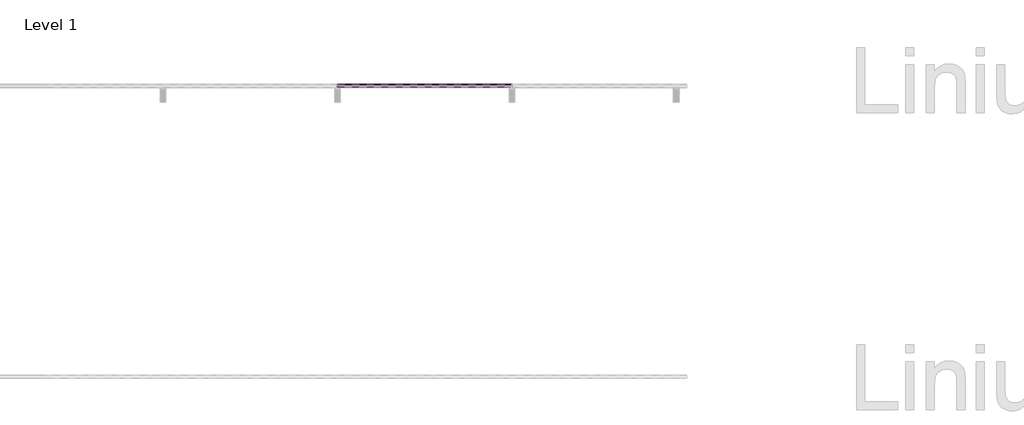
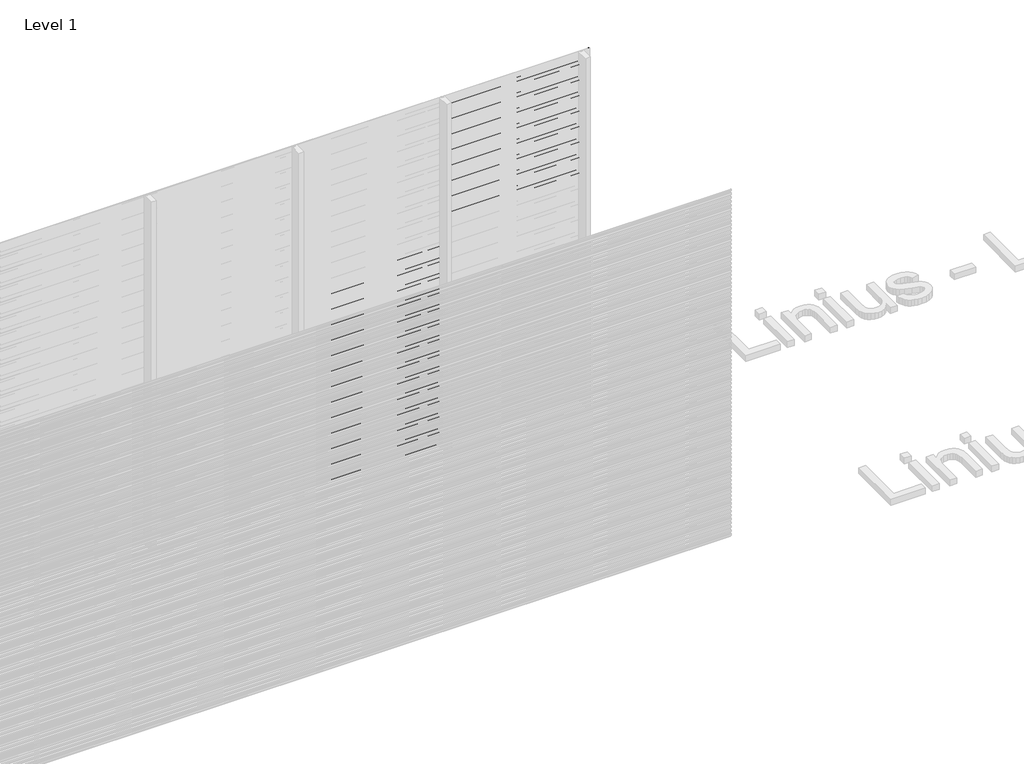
# One storey, part 46 of 507: 84 proxies.
"""IFC4 building model written with IfcOpenShell, lengths in millimetres."""

from ifc_helpers import new_model, si_unit, frame, origin, place, context, project, spatial, polyline, outline, extrude, element, save

model = new_model("IFC4")

# Units and contexts
model_context = context("Model", 3, world=origin())
ifc_project = project(units=[si_unit("LENGTHUNIT", "METRE", prefix="MILLI")], contexts=[model_context])

# Site, building, storey
site = spatial("IfcSite", under=ifc_project)
building = spatial("IfcBuilding", under=site)
storey = spatial("IfcBuildingStorey", under=building, Name="Level 1", Elevation=0.0)

# Proxies
placement = place(None, origin())
element("IfcBuildingElementProxy", 1, Name="Wall Sweeps", at=placement, inside=storey, context=model_context, shape_type="SweptSolid", body=[
    extrude(outline(polyline([(29003.4540136, 1707.6), (29003.4540136, 1694.1), (29002.2040136, 1694.8216933), (29002.2040136, 1706.8782281), (28983.0540136, 1717.9345698), (28983.0540136, 1731.6), (28984.3040136, 1731.6), (28984.3040136, 1718.6562577), (29003.4540136, 1707.6)])), frame((48566.6208096, 0.0, 0.0), z_axis=(1.0, 0.0, 0.0), x_axis=(0.0, 1.0, 0.0)), (0.0, 0.0, 1.0), 1199.9999999),
])
element("IfcBuildingElementProxy", 2, Name="Wall Sweeps", at=placement, inside=storey, context=model_context, shape_type="SweptSolid", body=[
    extrude(outline(polyline([(29003.4540136, 1674.3), (29003.4540136, 1660.8), (29002.2040136, 1661.5216933), (29002.2040136, 1673.5782281), (28983.0540136, 1684.6345698), (28983.0540136, 1698.3), (28984.3040136, 1698.3), (28984.3040136, 1685.3562577), (29003.4540136, 1674.3)])), frame((48566.6208096, 0.0, 0.0), z_axis=(1.0, 0.0, 0.0), x_axis=(0.0, 1.0, 0.0)), (0.0, 0.0, 1.0), 1199.9999999),
])
element("IfcBuildingElementProxy", 3, Name="Wall Sweeps", at=placement, inside=storey, context=model_context, shape_type="SweptSolid", body=[
    extrude(outline(polyline([(29003.4540136, 1641.0), (29003.4540136, 1627.5), (29002.2040136, 1628.2216933), (29002.2040136, 1640.2782281), (28983.0540136, 1651.3345698), (28983.0540136, 1665.0), (28984.3040136, 1665.0), (28984.3040136, 1652.0562577), (29003.4540136, 1641.0)])), frame((48566.6208096, 0.0, 0.0), z_axis=(1.0, 0.0, 0.0), x_axis=(0.0, 1.0, 0.0)), (0.0, 0.0, 1.0), 1199.9999999),
])
element("IfcBuildingElementProxy", 4, Name="Wall Sweeps", at=placement, inside=storey, context=model_context, shape_type="SweptSolid", body=[
    extrude(outline(polyline([(29003.4540136, 1607.7), (29003.4540136, 1594.2), (29002.2040136, 1594.9216933), (29002.2040136, 1606.9782281), (28983.0540136, 1618.0345698), (28983.0540136, 1631.7), (28984.3040136, 1631.7), (28984.3040136, 1618.7562577), (29003.4540136, 1607.7)])), frame((48566.6208096, 0.0, 0.0), z_axis=(1.0, 0.0, 0.0), x_axis=(0.0, 1.0, 0.0)), (0.0, 0.0, 1.0), 1199.9999999),
])
element("IfcBuildingElementProxy", 5, Name="Wall Sweeps", at=placement, inside=storey, context=model_context, shape_type="SweptSolid", body=[
    extrude(outline(polyline([(29003.4540136, 1574.4), (29003.4540136, 1560.9), (29002.2040136, 1561.6216933), (29002.2040136, 1573.6782281), (28983.0540136, 1584.7345698), (28983.0540136, 1598.4), (28984.3040136, 1598.4), (28984.3040136, 1585.4562577), (29003.4540136, 1574.4)])), frame((48566.6208096, 0.0, 0.0), z_axis=(1.0, 0.0, 0.0), x_axis=(0.0, 1.0, 0.0)), (0.0, 0.0, 1.0), 1199.9999999),
])
element("IfcBuildingElementProxy", 6, Name="Wall Sweeps", at=placement, inside=storey, context=model_context, shape_type="SweptSolid", body=[
    extrude(outline(polyline([(29003.4540136, 1541.1), (29003.4540136, 1527.6), (29002.2040136, 1528.3216933), (29002.2040136, 1540.3782281), (28983.0540136, 1551.4345698), (28983.0540136, 1565.1), (28984.3040136, 1565.1), (28984.3040136, 1552.1562577), (29003.4540136, 1541.1)])), frame((48566.6208096, 0.0, 0.0), z_axis=(1.0, 0.0, 0.0), x_axis=(0.0, 1.0, 0.0)), (0.0, 0.0, 1.0), 1199.9999999),
])
element("IfcBuildingElementProxy", 7, Name="Wall Sweeps", at=placement, inside=storey, context=model_context, shape_type="SweptSolid", body=[
    extrude(outline(polyline([(29003.4540136, 1507.8), (29003.4540136, 1494.3), (29002.2040136, 1495.0216933), (29002.2040136, 1507.0782281), (28983.0540136, 1518.1345698), (28983.0540136, 1531.8), (28984.3040136, 1531.8), (28984.3040136, 1518.8562577), (29003.4540136, 1507.8)])), frame((48566.6208096, 0.0, 0.0), z_axis=(1.0, 0.0, 0.0), x_axis=(0.0, 1.0, 0.0)), (0.0, 0.0, 1.0), 1199.9999999),
])
element("IfcBuildingElementProxy", 8, Name="Wall Sweeps", at=placement, inside=storey, context=model_context, shape_type="SweptSolid", body=[
    extrude(outline(polyline([(29003.4540136, 1474.5), (29003.4540136, 1461.0), (29002.2040136, 1461.7216933), (29002.2040136, 1473.7782281), (28983.0540136, 1484.8345698), (28983.0540136, 1498.5), (28984.3040136, 1498.5), (28984.3040136, 1485.5562577), (29003.4540136, 1474.5)])), frame((48566.6208096, 0.0, 0.0), z_axis=(1.0, 0.0, 0.0), x_axis=(0.0, 1.0, 0.0)), (0.0, 0.0, 1.0), 1199.9999999),
])
element("IfcBuildingElementProxy", 9, Name="Wall Sweeps", at=placement, inside=storey, context=model_context, shape_type="SweptSolid", body=[
    extrude(outline(polyline([(29003.4540136, 1441.2), (29003.4540136, 1427.7), (29002.2040136, 1428.4216933), (29002.2040136, 1440.4782281), (28983.0540136, 1451.5345698), (28983.0540136, 1465.2), (28984.3040136, 1465.2), (28984.3040136, 1452.2562577), (29003.4540136, 1441.2)])), frame((48566.6208096, 0.0, 0.0), z_axis=(1.0, 0.0, 0.0), x_axis=(0.0, 1.0, 0.0)), (0.0, 0.0, 1.0), 1199.9999999),
])
element("IfcBuildingElementProxy", 10, Name="Wall Sweeps", at=placement, inside=storey, context=model_context, shape_type="SweptSolid", body=[
    extrude(outline(polyline([(29003.4540136, 1407.9), (29003.4540136, 1394.4), (29002.2040136, 1395.1216933), (29002.2040136, 1407.1782281), (28983.0540136, 1418.2345698), (28983.0540136, 1431.9), (28984.3040136, 1431.9), (28984.3040136, 1418.9562577), (29003.4540136, 1407.9)])), frame((48566.6208096, 0.0, 0.0), z_axis=(1.0, 0.0, 0.0), x_axis=(0.0, 1.0, 0.0)), (0.0, 0.0, 1.0), 1199.9999999),
])
element("IfcBuildingElementProxy", 11, Name="Wall Sweeps", at=placement, inside=storey, context=model_context, shape_type="SweptSolid", body=[
    extrude(outline(polyline([(29003.4540136, 1374.6), (29003.4540136, 1361.1), (29002.2040136, 1361.8216933), (29002.2040136, 1373.8782281), (28983.0540136, 1384.9345698), (28983.0540136, 1398.6), (28984.3040136, 1398.6), (28984.3040136, 1385.6562577), (29003.4540136, 1374.6)])), frame((48566.6208096, 0.0, 0.0), z_axis=(1.0, 0.0, 0.0), x_axis=(0.0, 1.0, 0.0)), (0.0, 0.0, 1.0), 1199.9999999),
])
element("IfcBuildingElementProxy", 12, Name="Wall Sweeps", at=placement, inside=storey, context=model_context, shape_type="SweptSolid", body=[
    extrude(outline(polyline([(29003.4540136, 1341.3), (29003.4540136, 1327.8), (29002.2040136, 1328.5216933), (29002.2040136, 1340.5782281), (28983.0540136, 1351.6345698), (28983.0540136, 1365.3), (28984.3040136, 1365.3), (28984.3040136, 1352.3562577), (29003.4540136, 1341.3)])), frame((48566.6208096, 0.0, 0.0), z_axis=(1.0, 0.0, 0.0), x_axis=(0.0, 1.0, 0.0)), (0.0, 0.0, 1.0), 1199.9999999),
])
element("IfcBuildingElementProxy", 13, Name="Wall Sweeps", at=placement, inside=storey, context=model_context, shape_type="SweptSolid", body=[
    extrude(outline(polyline([(29003.4540136, 1308.0), (29003.4540136, 1294.5), (29002.2040136, 1295.2216933), (29002.2040136, 1307.2782281), (28983.0540136, 1318.3345698), (28983.0540136, 1332.0), (28984.3040136, 1332.0), (28984.3040136, 1319.0562577), (29003.4540136, 1308.0)])), frame((48566.6208096, 0.0, 0.0), z_axis=(1.0, 0.0, 0.0), x_axis=(0.0, 1.0, 0.0)), (0.0, 0.0, 1.0), 1199.9999999),
])
element("IfcBuildingElementProxy", 14, Name="Wall Sweeps", at=placement, inside=storey, context=model_context, shape_type="SweptSolid", body=[
    extrude(outline(polyline([(29003.4540136, 1274.7), (29003.4540136, 1261.2), (29002.2040136, 1261.9216933), (29002.2040136, 1273.9782281), (28983.0540136, 1285.0345698), (28983.0540136, 1298.7), (28984.3040136, 1298.7), (28984.3040136, 1285.7562577), (29003.4540136, 1274.7)])), frame((48566.6208096, 0.0, 0.0), z_axis=(1.0, 0.0, 0.0), x_axis=(0.0, 1.0, 0.0)), (0.0, 0.0, 1.0), 1199.9999999),
])
element("IfcBuildingElementProxy", 15, Name="Wall Sweeps", at=placement, inside=storey, context=model_context, shape_type="SweptSolid", body=[
    extrude(outline(polyline([(29003.4540136, 1241.4), (29003.4540136, 1227.9), (29002.2040136, 1228.6216933), (29002.2040136, 1240.6782281), (28983.0540136, 1251.7345698), (28983.0540136, 1265.4), (28984.3040136, 1265.4), (28984.3040136, 1252.4562577), (29003.4540136, 1241.4)])), frame((48566.6208096, 0.0, 0.0), z_axis=(1.0, 0.0, 0.0), x_axis=(0.0, 1.0, 0.0)), (0.0, 0.0, 1.0), 1199.9999999),
])
element("IfcBuildingElementProxy", 16, Name="Wall Sweeps", at=placement, inside=storey, context=model_context, shape_type="SweptSolid", body=[
    extrude(outline(polyline([(29003.4540136, 1208.1), (29003.4540136, 1194.6), (29002.2040136, 1195.3216933), (29002.2040136, 1207.3782281), (28983.0540136, 1218.4345698), (28983.0540136, 1232.1), (28984.3040136, 1232.1), (28984.3040136, 1219.1562577), (29003.4540136, 1208.1)])), frame((48566.6208096, 0.0, 0.0), z_axis=(1.0, 0.0, 0.0), x_axis=(0.0, 1.0, 0.0)), (0.0, 0.0, 1.0), 1199.9999999),
])
element("IfcBuildingElementProxy", 17, Name="Wall Sweeps", at=placement, inside=storey, context=model_context, shape_type="SweptSolid", body=[
    extrude(outline(polyline([(29003.4540136, 1174.8), (29003.4540136, 1161.3), (29002.2040136, 1162.0216933), (29002.2040136, 1174.0782281), (28983.0540136, 1185.1345698), (28983.0540136, 1198.8), (28984.3040136, 1198.8), (28984.3040136, 1185.8562577), (29003.4540136, 1174.8)])), frame((48566.6208096, 0.0, 0.0), z_axis=(1.0, 0.0, 0.0), x_axis=(0.0, 1.0, 0.0)), (0.0, 0.0, 1.0), 1199.9999999),
])
element("IfcBuildingElementProxy", 18, Name="Wall Sweeps", at=placement, inside=storey, context=model_context, shape_type="SweptSolid", body=[
    extrude(outline(polyline([(29003.4540136, 1141.5), (29003.4540136, 1128.0), (29002.2040136, 1128.7216933), (29002.2040136, 1140.7782281), (28983.0540136, 1151.8345698), (28983.0540136, 1165.5), (28984.3040136, 1165.5), (28984.3040136, 1152.5562577), (29003.4540136, 1141.5)])), frame((48566.6208096, 0.0, 0.0), z_axis=(1.0, 0.0, 0.0), x_axis=(0.0, 1.0, 0.0)), (0.0, 0.0, 1.0), 1199.9999999),
])
element("IfcBuildingElementProxy", 19, Name="Wall Sweeps", at=placement, inside=storey, context=model_context, shape_type="SweptSolid", body=[
    extrude(outline(polyline([(29003.4540136, 1108.2), (29003.4540136, 1094.7), (29002.2040136, 1095.4216933), (29002.2040136, 1107.4782281), (28983.0540136, 1118.5345698), (28983.0540136, 1132.2), (28984.3040136, 1132.2), (28984.3040136, 1119.2562577), (29003.4540136, 1108.2)])), frame((48566.6208096, 0.0, 0.0), z_axis=(1.0, 0.0, 0.0), x_axis=(0.0, 1.0, 0.0)), (0.0, 0.0, 1.0), 1199.9999999),
])
element("IfcBuildingElementProxy", 20, Name="Wall Sweeps", at=placement, inside=storey, context=model_context, shape_type="SweptSolid", body=[
    extrude(outline(polyline([(29003.4540136, 1074.9), (29003.4540136, 1061.4), (29002.2040136, 1062.1216933), (29002.2040136, 1074.1782281), (28983.0540136, 1085.2345698), (28983.0540136, 1098.9), (28984.3040136, 1098.9), (28984.3040136, 1085.9562577), (29003.4540136, 1074.9)])), frame((48566.6208096, 0.0, 0.0), z_axis=(1.0, 0.0, 0.0), x_axis=(0.0, 1.0, 0.0)), (0.0, 0.0, 1.0), 1199.9999999),
])
element("IfcBuildingElementProxy", 21, Name="Wall Sweeps", at=placement, inside=storey, context=model_context, shape_type="SweptSolid", body=[
    extrude(outline(polyline([(29003.4540136, 1041.6), (29003.4540136, 1028.1), (29002.2040136, 1028.8216933), (29002.2040136, 1040.8782281), (28983.0540136, 1051.9345698), (28983.0540136, 1065.6), (28984.3040136, 1065.6), (28984.3040136, 1052.6562577), (29003.4540136, 1041.6)])), frame((48566.6208096, 0.0, 0.0), z_axis=(1.0, 0.0, 0.0), x_axis=(0.0, 1.0, 0.0)), (0.0, 0.0, 1.0), 1199.9999999),
])
element("IfcBuildingElementProxy", 22, Name="Wall Sweeps", at=placement, inside=storey, context=model_context, shape_type="SweptSolid", body=[
    extrude(outline(polyline([(29003.4540136, 1008.3), (29003.4540136, 994.8), (29002.2040136, 995.5216933), (29002.2040136, 1007.5782281), (28983.0540136, 1018.6345698), (28983.0540136, 1032.3), (28984.3040136, 1032.3), (28984.3040136, 1019.3562577), (29003.4540136, 1008.3)])), frame((48566.6208096, 0.0, 0.0), z_axis=(1.0, 0.0, 0.0), x_axis=(0.0, 1.0, 0.0)), (0.0, 0.0, 1.0), 1199.9999999),
])
element("IfcBuildingElementProxy", 23, Name="Wall Sweeps", at=placement, inside=storey, context=model_context, shape_type="SweptSolid", body=[
    extrude(outline(polyline([(29003.4540136, 975.0), (29003.4540136, 961.5), (29002.2040136, 962.2216933), (29002.2040136, 974.2782281), (28983.0540136, 985.3345698), (28983.0540136, 999.0), (28984.3040136, 999.0), (28984.3040136, 986.0562577), (29003.4540136, 975.0)])), frame((48566.6208096, 0.0, 0.0), z_axis=(1.0, 0.0, 0.0), x_axis=(0.0, 1.0, 0.0)), (0.0, 0.0, 1.0), 1199.9999999),
])
element("IfcBuildingElementProxy", 24, Name="Wall Sweeps", at=placement, inside=storey, context=model_context, shape_type="SweptSolid", body=[
    extrude(outline(polyline([(29003.4540136, 941.7), (29003.4540136, 928.2), (29002.2040136, 928.9216933), (29002.2040136, 940.9782281), (28983.0540136, 952.0345698), (28983.0540136, 965.7), (28984.3040136, 965.7), (28984.3040136, 952.7562577), (29003.4540136, 941.7)])), frame((48566.6208096, 0.0, 0.0), z_axis=(1.0, 0.0, 0.0), x_axis=(0.0, 1.0, 0.0)), (0.0, 0.0, 1.0), 1199.9999999),
])
element("IfcBuildingElementProxy", 25, Name="Wall Sweeps", at=placement, inside=storey, context=model_context, shape_type="SweptSolid", body=[
    extrude(outline(polyline([(29003.4540136, 908.4), (29003.4540136, 894.9), (29002.2040136, 895.6216933), (29002.2040136, 907.6782281), (28983.0540136, 918.7345698), (28983.0540136, 932.4), (28984.3040136, 932.4), (28984.3040136, 919.4562577), (29003.4540136, 908.4)])), frame((48566.6208096, 0.0, 0.0), z_axis=(1.0, 0.0, 0.0), x_axis=(0.0, 1.0, 0.0)), (0.0, 0.0, 1.0), 1199.9999999),
])
element("IfcBuildingElementProxy", 26, Name="Wall Sweeps", at=placement, inside=storey, context=model_context, shape_type="SweptSolid", body=[
    extrude(outline(polyline([(29003.4540136, 875.1), (29003.4540136, 861.6), (29002.2040136, 862.3216933), (29002.2040136, 874.3782281), (28983.0540136, 885.4345698), (28983.0540136, 899.1), (28984.3040136, 899.1), (28984.3040136, 886.1562577), (29003.4540136, 875.1)])), frame((48566.6208096, 0.0, 0.0), z_axis=(1.0, 0.0, 0.0), x_axis=(0.0, 1.0, 0.0)), (0.0, 0.0, 1.0), 1199.9999999),
])
element("IfcBuildingElementProxy", 27, Name="Wall Sweeps", at=placement, inside=storey, context=model_context, shape_type="SweptSolid", body=[
    extrude(outline(polyline([(29003.4540136, 841.8), (29003.4540136, 828.3), (29002.2040136, 829.0216933), (29002.2040136, 841.0782281), (28983.0540136, 852.1345698), (28983.0540136, 865.8), (28984.3040136, 865.8), (28984.3040136, 852.8562577), (29003.4540136, 841.8)])), frame((48566.6208096, 0.0, 0.0), z_axis=(1.0, 0.0, 0.0), x_axis=(0.0, 1.0, 0.0)), (0.0, 0.0, 1.0), 1199.9999999),
])
element("IfcBuildingElementProxy", 28, Name="Wall Sweeps", at=placement, inside=storey, context=model_context, shape_type="SweptSolid", body=[
    extrude(outline(polyline([(29003.4540136, 808.5), (29003.4540136, 795.0), (29002.2040136, 795.7216933), (29002.2040136, 807.7782281), (28983.0540136, 818.8345698), (28983.0540136, 832.5), (28984.3040136, 832.5), (28984.3040136, 819.5562577), (29003.4540136, 808.5)])), frame((48566.6208096, 0.0, 0.0), z_axis=(1.0, 0.0, 0.0), x_axis=(0.0, 1.0, 0.0)), (0.0, 0.0, 1.0), 1199.9999999),
])
element("IfcBuildingElementProxy", 29, Name="Wall Sweeps", at=placement, inside=storey, context=model_context, shape_type="SweptSolid", body=[
    extrude(outline(polyline([(29003.4540136, 775.2), (29003.4540136, 761.7), (29002.2040136, 762.4216933), (29002.2040136, 774.4782281), (28983.0540136, 785.5345698), (28983.0540136, 799.2), (28984.3040136, 799.2), (28984.3040136, 786.2562577), (29003.4540136, 775.2)])), frame((48566.6208096, 0.0, 0.0), z_axis=(1.0, 0.0, 0.0), x_axis=(0.0, 1.0, 0.0)), (0.0, 0.0, 1.0), 1199.9999999),
])
element("IfcBuildingElementProxy", 30, Name="Wall Sweeps", at=placement, inside=storey, context=model_context, shape_type="SweptSolid", body=[
    extrude(outline(polyline([(29003.4540136, 741.9), (29003.4540136, 728.4), (29002.2040136, 729.1216933), (29002.2040136, 741.1782281), (28983.0540136, 752.2345698), (28983.0540136, 765.9), (28984.3040136, 765.9), (28984.3040136, 752.9562577), (29003.4540136, 741.9)])), frame((48566.6208096, 0.0, 0.0), z_axis=(1.0, 0.0, 0.0), x_axis=(0.0, 1.0, 0.0)), (0.0, 0.0, 1.0), 1199.9999999),
])
element("IfcBuildingElementProxy", 31, Name="Wall Sweeps", at=placement, inside=storey, context=model_context, shape_type="SweptSolid", body=[
    extrude(outline(polyline([(29003.4540136, 708.6), (29003.4540136, 695.1), (29002.2040136, 695.8216933), (29002.2040136, 707.8782281), (28983.0540136, 718.9345698), (28983.0540136, 732.6), (28984.3040136, 732.6), (28984.3040136, 719.6562577), (29003.4540136, 708.6)])), frame((48566.6208096, 0.0, 0.0), z_axis=(1.0, 0.0, 0.0), x_axis=(0.0, 1.0, 0.0)), (0.0, 0.0, 1.0), 1199.9999999),
])
element("IfcBuildingElementProxy", 32, Name="Wall Sweeps", at=placement, inside=storey, context=model_context, shape_type="SweptSolid", body=[
    extrude(outline(polyline([(29003.4540136, 675.3), (29003.4540136, 661.8), (29002.2040136, 662.5216933), (29002.2040136, 674.5782281), (28983.0540136, 685.6345698), (28983.0540136, 699.3), (28984.3040136, 699.3), (28984.3040136, 686.3562577), (29003.4540136, 675.3)])), frame((48566.6208096, 0.0, 0.0), z_axis=(1.0, 0.0, 0.0), x_axis=(0.0, 1.0, 0.0)), (0.0, 0.0, 1.0), 1199.9999999),
])
element("IfcBuildingElementProxy", 33, Name="Wall Sweeps", at=placement, inside=storey, context=model_context, shape_type="SweptSolid", body=[
    extrude(outline(polyline([(29003.4540136, 642.0), (29003.4540136, 628.5), (29002.2040136, 629.2216933), (29002.2040136, 641.2782281), (28983.0540136, 652.3345698), (28983.0540136, 666.0), (28984.3040136, 666.0), (28984.3040136, 653.0562577), (29003.4540136, 642.0)])), frame((48566.6208096, 0.0, 0.0), z_axis=(1.0, 0.0, 0.0), x_axis=(0.0, 1.0, 0.0)), (0.0, 0.0, 1.0), 1199.9999999),
])
element("IfcBuildingElementProxy", 34, Name="Wall Sweeps", at=placement, inside=storey, context=model_context, shape_type="SweptSolid", body=[
    extrude(outline(polyline([(29003.4540136, 608.7), (29003.4540136, 595.2), (29002.2040136, 595.9216933), (29002.2040136, 607.9782281), (28983.0540136, 619.0345698), (28983.0540136, 632.7), (28984.3040136, 632.7), (28984.3040136, 619.7562577), (29003.4540136, 608.7)])), frame((48566.6208096, 0.0, 0.0), z_axis=(1.0, 0.0, 0.0), x_axis=(0.0, 1.0, 0.0)), (0.0, 0.0, 1.0), 1199.9999999),
])
element("IfcBuildingElementProxy", 35, Name="Wall Sweeps", at=placement, inside=storey, context=model_context, shape_type="SweptSolid", body=[
    extrude(outline(polyline([(29003.4540136, 575.4), (29003.4540136, 561.9), (29002.2040136, 562.6216933), (29002.2040136, 574.6782281), (28983.0540136, 585.7345698), (28983.0540136, 599.4), (28984.3040136, 599.4), (28984.3040136, 586.4562577), (29003.4540136, 575.4)])), frame((48566.6208096, 0.0, 0.0), z_axis=(1.0, 0.0, 0.0), x_axis=(0.0, 1.0, 0.0)), (0.0, 0.0, 1.0), 1199.9999999),
])
element("IfcBuildingElementProxy", 36, Name="Wall Sweeps", at=placement, inside=storey, context=model_context, shape_type="SweptSolid", body=[
    extrude(outline(polyline([(29003.4540136, 542.1), (29003.4540136, 528.6), (29002.2040136, 529.3216933), (29002.2040136, 541.3782281), (28983.0540136, 552.4345698), (28983.0540136, 566.1), (28984.3040136, 566.1), (28984.3040136, 553.1562577), (29003.4540136, 542.1)])), frame((48566.6208096, 0.0, 0.0), z_axis=(1.0, 0.0, 0.0), x_axis=(0.0, 1.0, 0.0)), (0.0, 0.0, 1.0), 1199.9999999),
])
element("IfcBuildingElementProxy", 37, Name="Wall Sweeps", at=placement, inside=storey, context=model_context, shape_type="SweptSolid", body=[
    extrude(outline(polyline([(29003.4540136, 508.8), (29003.4540136, 495.3), (29002.2040136, 496.0216933), (29002.2040136, 508.0782281), (28983.0540136, 519.1345698), (28983.0540136, 532.8), (28984.3040136, 532.8), (28984.3040136, 519.8562577), (29003.4540136, 508.8)])), frame((48566.6208096, 0.0, 0.0), z_axis=(1.0, 0.0, 0.0), x_axis=(0.0, 1.0, 0.0)), (0.0, 0.0, 1.0), 1199.9999999),
])
element("IfcBuildingElementProxy", 38, Name="Wall Sweeps", at=placement, inside=storey, context=model_context, shape_type="SweptSolid", body=[
    extrude(outline(polyline([(29003.4540136, 475.5), (29003.4540136, 462.0), (29002.2040136, 462.7216933), (29002.2040136, 474.7782281), (28983.0540136, 485.8345698), (28983.0540136, 499.5), (28984.3040136, 499.5), (28984.3040136, 486.5562577), (29003.4540136, 475.5)])), frame((48566.6208096, 0.0, 0.0), z_axis=(1.0, 0.0, 0.0), x_axis=(0.0, 1.0, 0.0)), (0.0, 0.0, 1.0), 1199.9999999),
])
element("IfcBuildingElementProxy", 39, Name="Wall Sweeps", at=placement, inside=storey, context=model_context, shape_type="SweptSolid", body=[
    extrude(outline(polyline([(29003.4540136, 442.2), (29003.4540136, 428.7), (29002.2040136, 429.4216933), (29002.2040136, 441.4782281), (28983.0540136, 452.5345698), (28983.0540136, 466.2), (28984.3040136, 466.2), (28984.3040136, 453.2562577), (29003.4540136, 442.2)])), frame((48566.6208096, 0.0, 0.0), z_axis=(1.0, 0.0, 0.0), x_axis=(0.0, 1.0, 0.0)), (0.0, 0.0, 1.0), 1199.9999999),
])
element("IfcBuildingElementProxy", 40, Name="Wall Sweeps", at=placement, inside=storey, context=model_context, shape_type="SweptSolid", body=[
    extrude(outline(polyline([(29003.4540136, 408.9), (29003.4540136, 395.4), (29002.2040136, 396.1216933), (29002.2040136, 408.1782281), (28983.0540136, 419.2345698), (28983.0540136, 432.9), (28984.3040136, 432.9), (28984.3040136, 419.9562577), (29003.4540136, 408.9)])), frame((48566.6208096, 0.0, 0.0), z_axis=(1.0, 0.0, 0.0), x_axis=(0.0, 1.0, 0.0)), (0.0, 0.0, 1.0), 1199.9999999),
])
element("IfcBuildingElementProxy", 41, Name="Wall Sweeps", at=placement, inside=storey, context=model_context, shape_type="SweptSolid", body=[
    extrude(outline(polyline([(29003.4540136, 375.6), (29003.4540136, 362.1), (29002.2040136, 362.8216933), (29002.2040136, 374.8782281), (28983.0540136, 385.9345698), (28983.0540136, 399.6), (28984.3040136, 399.6), (28984.3040136, 386.6562577), (29003.4540136, 375.6)])), frame((48566.6208096, 0.0, 0.0), z_axis=(1.0, 0.0, 0.0), x_axis=(0.0, 1.0, 0.0)), (0.0, 0.0, 1.0), 1199.9999999),
])
element("IfcBuildingElementProxy", 42, Name="Wall Sweeps", at=placement, inside=storey, context=model_context, shape_type="SweptSolid", body=[
    extrude(outline(polyline([(29003.4540136, 342.3), (29003.4540136, 328.8), (29002.2040136, 329.5216933), (29002.2040136, 341.5782281), (28983.0540136, 352.6345698), (28983.0540136, 366.3), (28984.3040136, 366.3), (28984.3040136, 353.3562577), (29003.4540136, 342.3)])), frame((48566.6208096, 0.0, 0.0), z_axis=(1.0, 0.0, 0.0), x_axis=(0.0, 1.0, 0.0)), (0.0, 0.0, 1.0), 1199.9999999),
])
element("IfcBuildingElementProxy", 43, Name="Wall Sweeps", at=placement, inside=storey, context=model_context, shape_type="SweptSolid", body=[
    extrude(outline(polyline([(29003.4540136, 309.0), (29003.4540136, 295.5), (29002.2040136, 296.2216933), (29002.2040136, 308.2782281), (28983.0540136, 319.3345698), (28983.0540136, 333.0), (28984.3040136, 333.0), (28984.3040136, 320.0562577), (29003.4540136, 309.0)])), frame((48566.6208096, 0.0, 0.0), z_axis=(1.0, 0.0, 0.0), x_axis=(0.0, 1.0, 0.0)), (0.0, 0.0, 1.0), 1199.9999999),
])
element("IfcBuildingElementProxy", 44, Name="Wall Sweeps", at=placement, inside=storey, context=model_context, shape_type="SweptSolid", body=[
    extrude(outline(polyline([(29003.4540136, 275.7), (29003.4540136, 262.2), (29002.2040136, 262.9216933), (29002.2040136, 274.9782281), (28983.0540136, 286.0345698), (28983.0540136, 299.7), (28984.3040136, 299.7), (28984.3040136, 286.7562577), (29003.4540136, 275.7)])), frame((48566.6208096, 0.0, 0.0), z_axis=(1.0, 0.0, 0.0), x_axis=(0.0, 1.0, 0.0)), (0.0, 0.0, 1.0), 1199.9999999),
])
element("IfcBuildingElementProxy", 45, Name="Wall Sweeps", at=placement, inside=storey, context=model_context, shape_type="SweptSolid", body=[
    extrude(outline(polyline([(29003.4540136, 242.4), (29003.4540136, 228.9), (29002.2040136, 229.6216933), (29002.2040136, 241.6782281), (28983.0540136, 252.7345698), (28983.0540136, 266.4), (28984.3040136, 266.4), (28984.3040136, 253.4562577), (29003.4540136, 242.4)])), frame((48566.6208096, 0.0, 0.0), z_axis=(1.0, 0.0, 0.0), x_axis=(0.0, 1.0, 0.0)), (0.0, 0.0, 1.0), 1199.9999999),
])
element("IfcBuildingElementProxy", 46, Name="Wall Sweeps", at=placement, inside=storey, context=model_context, shape_type="SweptSolid", body=[
    extrude(outline(polyline([(29003.4540136, 209.1), (29003.4540136, 195.6), (29002.2040136, 196.3216933), (29002.2040136, 208.3782281), (28983.0540136, 219.4345698), (28983.0540136, 233.1), (28984.3040136, 233.1), (28984.3040136, 220.1562577), (29003.4540136, 209.1)])), frame((48566.6208096, 0.0, 0.0), z_axis=(1.0, 0.0, 0.0), x_axis=(0.0, 1.0, 0.0)), (0.0, 0.0, 1.0), 1199.9999999),
])
element("IfcBuildingElementProxy", 47, Name="Wall Sweeps", at=placement, inside=storey, context=model_context, shape_type="SweptSolid", body=[
    extrude(outline(polyline([(29003.4540136, 175.8), (29003.4540136, 162.3), (29002.2040136, 163.0216933), (29002.2040136, 175.0782281), (28983.0540136, 186.1345698), (28983.0540136, 199.8), (28984.3040136, 199.8), (28984.3040136, 186.8562577), (29003.4540136, 175.8)])), frame((48566.6208096, 0.0, 0.0), z_axis=(1.0, 0.0, 0.0), x_axis=(0.0, 1.0, 0.0)), (0.0, 0.0, 1.0), 1199.9999999),
])
element("IfcBuildingElementProxy", 48, Name="Wall Sweeps", at=placement, inside=storey, context=model_context, shape_type="SweptSolid", body=[
    extrude(outline(polyline([(29003.4540136, 142.5), (29003.4540136, 129.0), (29002.2040136, 129.7216933), (29002.2040136, 141.7782281), (28983.0540136, 152.8345698), (28983.0540136, 166.5), (28984.3040136, 166.5), (28984.3040136, 153.5562577), (29003.4540136, 142.5)])), frame((48566.6208096, 0.0, 0.0), z_axis=(1.0, 0.0, 0.0), x_axis=(0.0, 1.0, 0.0)), (0.0, 0.0, 1.0), 1199.9999999),
])
element("IfcBuildingElementProxy", 49, Name="Wall Sweeps", at=placement, inside=storey, context=model_context, shape_type="SweptSolid", body=[
    extrude(outline(polyline([(29003.4540136, 109.2), (29003.4540136, 95.7), (29002.2040136, 96.4216933), (29002.2040136, 108.4782281), (28983.0540136, 119.5345698), (28983.0540136, 133.2), (28984.3040136, 133.2), (28984.3040136, 120.2562577), (29003.4540136, 109.2)])), frame((48566.6208096, 0.0, 0.0), z_axis=(1.0, 0.0, 0.0), x_axis=(0.0, 1.0, 0.0)), (0.0, 0.0, 1.0), 1199.9999999),
])
element("IfcBuildingElementProxy", 50, Name="Wall Sweeps", at=placement, inside=storey, context=model_context, shape_type="SweptSolid", body=[
    extrude(outline(polyline([(29003.4540136, 75.9), (29003.4540136, 62.4), (29002.2040136, 63.1216933), (29002.2040136, 75.1782281), (28983.0540136, 86.2345698), (28983.0540136, 99.9), (28984.3040136, 99.9), (28984.3040136, 86.9562577), (29003.4540136, 75.9)])), frame((48566.6208096, 0.0, 0.0), z_axis=(1.0, 0.0, 0.0), x_axis=(0.0, 1.0, 0.0)), (0.0, 0.0, 1.0), 1199.9999999),
])
element("IfcBuildingElementProxy", 51, Name="Wall Sweeps", at=placement, inside=storey, context=model_context, shape_type="SweptSolid", body=[
    extrude(outline(polyline([(29003.4540136, 42.6), (29003.4540136, 29.1), (29002.2040136, 29.8216933), (29002.2040136, 41.8782281), (28983.0540136, 52.9345698), (28983.0540136, 66.6), (28984.3040136, 66.6), (28984.3040136, 53.6562577), (29003.4540136, 42.6)])), frame((48566.6208096, 0.0, 0.0), z_axis=(1.0, 0.0, 0.0), x_axis=(0.0, 1.0, 0.0)), (0.0, 0.0, 1.0), 1199.9999999),
])
element("IfcBuildingElementProxy", 52, Name="Wall Sweeps", at=placement, inside=storey, context=model_context, shape_type="SweptSolid", body=[
    extrude(outline(polyline([(29003.4540136, 9.3), (29003.4540136, -4.2), (29002.2040136, -3.4783067), (29002.2040136, 8.5782281), (28983.0540136, 19.6345698), (28983.0540136, 33.3), (28984.3040136, 33.3), (28984.3040136, 20.3562577), (29003.4540136, 9.3)])), frame((48566.6208096, 0.0, 0.0), z_axis=(1.0, 0.0, 0.0), x_axis=(0.0, 1.0, 0.0)), (0.0, 0.0, 1.0), 1199.9999999),
])
element("IfcBuildingElementProxy", 53, Name="Wall Sweeps", at=placement, inside=storey, context=model_context, shape_type="SweptSolid", body=[
    extrude(outline(polyline([(29003.4540136, 2973.0), (29003.4540136, 2959.5), (29002.2040136, 2960.2216933), (29002.2040136, 2972.2782281), (28983.0540136, 2983.3345698), (28983.0540136, 2997.0), (28984.3040136, 2997.0), (28984.3040136, 2984.0562577), (29003.4540136, 2973.0)])), frame((49766.6208095, 0.0, 0.0), z_axis=(1.0, 0.0, 0.0), x_axis=(0.0, 1.0, 0.0)), (0.0, 0.0, 1.0), 1200.0000002),
])
element("IfcBuildingElementProxy", 54, Name="Wall Sweeps", at=placement, inside=storey, context=model_context, shape_type="SweptSolid", body=[
    extrude(outline(polyline([(29003.4540136, 2939.7), (29003.4540136, 2926.2), (29002.2040136, 2926.9216933), (29002.2040136, 2938.9782281), (28983.0540136, 2950.0345698), (28983.0540136, 2963.7), (28984.3040136, 2963.7), (28984.3040136, 2950.7562577), (29003.4540136, 2939.7)])), frame((49766.6208095, 0.0, 0.0), z_axis=(1.0, 0.0, 0.0), x_axis=(0.0, 1.0, 0.0)), (0.0, 0.0, 1.0), 1200.0000002),
])
element("IfcBuildingElementProxy", 55, Name="Wall Sweeps", at=placement, inside=storey, context=model_context, shape_type="SweptSolid", body=[
    extrude(outline(polyline([(29003.4540136, 2906.4), (29003.4540136, 2892.9), (29002.2040136, 2893.6216933), (29002.2040136, 2905.6782281), (28983.0540136, 2916.7345698), (28983.0540136, 2930.4), (28984.3040136, 2930.4), (28984.3040136, 2917.4562577), (29003.4540136, 2906.4)])), frame((49766.6208095, 0.0, 0.0), z_axis=(1.0, 0.0, 0.0), x_axis=(0.0, 1.0, 0.0)), (0.0, 0.0, 1.0), 1200.0000002),
])
element("IfcBuildingElementProxy", 56, Name="Wall Sweeps", at=placement, inside=storey, context=model_context, shape_type="SweptSolid", body=[
    extrude(outline(polyline([(29003.4540136, 2873.1), (29003.4540136, 2859.6), (29002.2040136, 2860.3216933), (29002.2040136, 2872.3782281), (28983.0540136, 2883.4345698), (28983.0540136, 2897.1), (28984.3040136, 2897.1), (28984.3040136, 2884.1562577), (29003.4540136, 2873.1)])), frame((49766.6208095, 0.0, 0.0), z_axis=(1.0, 0.0, 0.0), x_axis=(0.0, 1.0, 0.0)), (0.0, 0.0, 1.0), 1200.0000002),
])
element("IfcBuildingElementProxy", 57, Name="Wall Sweeps", at=placement, inside=storey, context=model_context, shape_type="SweptSolid", body=[
    extrude(outline(polyline([(29003.4540136, 2839.8), (29003.4540136, 2826.3), (29002.2040136, 2827.0216933), (29002.2040136, 2839.0782281), (28983.0540136, 2850.1345698), (28983.0540136, 2863.8), (28984.3040136, 2863.8), (28984.3040136, 2850.8562577), (29003.4540136, 2839.8)])), frame((49766.6208095, 0.0, 0.0), z_axis=(1.0, 0.0, 0.0), x_axis=(0.0, 1.0, 0.0)), (0.0, 0.0, 1.0), 1200.0000002),
])
element("IfcBuildingElementProxy", 58, Name="Wall Sweeps", at=placement, inside=storey, context=model_context, shape_type="SweptSolid", body=[
    extrude(outline(polyline([(29003.4540136, 2806.5), (29003.4540136, 2793.0), (29002.2040136, 2793.7216933), (29002.2040136, 2805.7782281), (28983.0540136, 2816.8345698), (28983.0540136, 2830.5), (28984.3040136, 2830.5), (28984.3040136, 2817.5562577), (29003.4540136, 2806.5)])), frame((49766.6208095, 0.0, 0.0), z_axis=(1.0, 0.0, 0.0), x_axis=(0.0, 1.0, 0.0)), (0.0, 0.0, 1.0), 1200.0000002),
])
element("IfcBuildingElementProxy", 59, Name="Wall Sweeps", at=placement, inside=storey, context=model_context, shape_type="SweptSolid", body=[
    extrude(outline(polyline([(29003.4540136, 2773.2), (29003.4540136, 2759.7), (29002.2040136, 2760.4216933), (29002.2040136, 2772.4782281), (28983.0540136, 2783.5345698), (28983.0540136, 2797.2), (28984.3040136, 2797.2), (28984.3040136, 2784.2562577), (29003.4540136, 2773.2)])), frame((49766.6208095, 0.0, 0.0), z_axis=(1.0, 0.0, 0.0), x_axis=(0.0, 1.0, 0.0)), (0.0, 0.0, 1.0), 1200.0000002),
])
element("IfcBuildingElementProxy", 60, Name="Wall Sweeps", at=placement, inside=storey, context=model_context, shape_type="SweptSolid", body=[
    extrude(outline(polyline([(29003.4540136, 2739.9), (29003.4540136, 2726.4), (29002.2040136, 2727.1216933), (29002.2040136, 2739.1782281), (28983.0540136, 2750.2345698), (28983.0540136, 2763.9), (28984.3040136, 2763.9), (28984.3040136, 2750.9562577), (29003.4540136, 2739.9)])), frame((49766.6208095, 0.0, 0.0), z_axis=(1.0, 0.0, 0.0), x_axis=(0.0, 1.0, 0.0)), (0.0, 0.0, 1.0), 1200.0000002),
])
element("IfcBuildingElementProxy", 61, Name="Wall Sweeps", at=placement, inside=storey, context=model_context, shape_type="SweptSolid", body=[
    extrude(outline(polyline([(29003.4540136, 2706.6), (29003.4540136, 2693.1), (29002.2040136, 2693.8216933), (29002.2040136, 2705.8782281), (28983.0540136, 2716.9345698), (28983.0540136, 2730.6), (28984.3040136, 2730.6), (28984.3040136, 2717.6562577), (29003.4540136, 2706.6)])), frame((49766.6208095, 0.0, 0.0), z_axis=(1.0, 0.0, 0.0), x_axis=(0.0, 1.0, 0.0)), (0.0, 0.0, 1.0), 1200.0000002),
])
element("IfcBuildingElementProxy", 62, Name="Wall Sweeps", at=placement, inside=storey, context=model_context, shape_type="SweptSolid", body=[
    extrude(outline(polyline([(29003.4540136, 2673.3), (29003.4540136, 2659.8), (29002.2040136, 2660.5216933), (29002.2040136, 2672.5782281), (28983.0540136, 2683.6345698), (28983.0540136, 2697.3), (28984.3040136, 2697.3), (28984.3040136, 2684.3562577), (29003.4540136, 2673.3)])), frame((49766.6208095, 0.0, 0.0), z_axis=(1.0, 0.0, 0.0), x_axis=(0.0, 1.0, 0.0)), (0.0, 0.0, 1.0), 1200.0000002),
])
element("IfcBuildingElementProxy", 63, Name="Wall Sweeps", at=placement, inside=storey, context=model_context, shape_type="SweptSolid", body=[
    extrude(outline(polyline([(29003.4540136, 2640.0), (29003.4540136, 2626.5), (29002.2040136, 2627.2216933), (29002.2040136, 2639.2782281), (28983.0540136, 2650.3345698), (28983.0540136, 2664.0), (28984.3040136, 2664.0), (28984.3040136, 2651.0562577), (29003.4540136, 2640.0)])), frame((49766.6208095, 0.0, 0.0), z_axis=(1.0, 0.0, 0.0), x_axis=(0.0, 1.0, 0.0)), (0.0, 0.0, 1.0), 1200.0000002),
])
element("IfcBuildingElementProxy", 64, Name="Wall Sweeps", at=placement, inside=storey, context=model_context, shape_type="SweptSolid", body=[
    extrude(outline(polyline([(29003.4540136, 2606.7), (29003.4540136, 2593.2), (29002.2040136, 2593.9216933), (29002.2040136, 2605.9782281), (28983.0540136, 2617.0345698), (28983.0540136, 2630.7), (28984.3040136, 2630.7), (28984.3040136, 2617.7562577), (29003.4540136, 2606.7)])), frame((49766.6208095, 0.0, 0.0), z_axis=(1.0, 0.0, 0.0), x_axis=(0.0, 1.0, 0.0)), (0.0, 0.0, 1.0), 1200.0000002),
])
element("IfcBuildingElementProxy", 65, Name="Wall Sweeps", at=placement, inside=storey, context=model_context, shape_type="SweptSolid", body=[
    extrude(outline(polyline([(29003.4540136, 2573.4), (29003.4540136, 2559.9), (29002.2040136, 2560.6216933), (29002.2040136, 2572.6782281), (28983.0540136, 2583.7345698), (28983.0540136, 2597.4), (28984.3040136, 2597.4), (28984.3040136, 2584.4562577), (29003.4540136, 2573.4)])), frame((49766.6208095, 0.0, 0.0), z_axis=(1.0, 0.0, 0.0), x_axis=(0.0, 1.0, 0.0)), (0.0, 0.0, 1.0), 1200.0000002),
])
element("IfcBuildingElementProxy", 66, Name="Wall Sweeps", at=placement, inside=storey, context=model_context, shape_type="SweptSolid", body=[
    extrude(outline(polyline([(29003.4540136, 2540.1), (29003.4540136, 2526.6), (29002.2040136, 2527.3216933), (29002.2040136, 2539.3782281), (28983.0540136, 2550.4345698), (28983.0540136, 2564.1), (28984.3040136, 2564.1), (28984.3040136, 2551.1562577), (29003.4540136, 2540.1)])), frame((49766.6208095, 0.0, 0.0), z_axis=(1.0, 0.0, 0.0), x_axis=(0.0, 1.0, 0.0)), (0.0, 0.0, 1.0), 1200.0000002),
])
element("IfcBuildingElementProxy", 67, Name="Wall Sweeps", at=placement, inside=storey, context=model_context, shape_type="SweptSolid", body=[
    extrude(outline(polyline([(29003.4540136, 2506.8), (29003.4540136, 2493.3), (29002.2040136, 2494.0216933), (29002.2040136, 2506.0782281), (28983.0540136, 2517.1345698), (28983.0540136, 2530.8), (28984.3040136, 2530.8), (28984.3040136, 2517.8562577), (29003.4540136, 2506.8)])), frame((49766.6208095, 0.0, 0.0), z_axis=(1.0, 0.0, 0.0), x_axis=(0.0, 1.0, 0.0)), (0.0, 0.0, 1.0), 1200.0000002),
])
element("IfcBuildingElementProxy", 68, Name="Wall Sweeps", at=placement, inside=storey, context=model_context, shape_type="SweptSolid", body=[
    extrude(outline(polyline([(29003.4540136, 2473.5), (29003.4540136, 2460.0), (29002.2040136, 2460.7216933), (29002.2040136, 2472.7782281), (28983.0540136, 2483.8345698), (28983.0540136, 2497.5), (28984.3040136, 2497.5), (28984.3040136, 2484.5562577), (29003.4540136, 2473.5)])), frame((49766.6208095, 0.0, 0.0), z_axis=(1.0, 0.0, 0.0), x_axis=(0.0, 1.0, 0.0)), (0.0, 0.0, 1.0), 1200.0000002),
])
element("IfcBuildingElementProxy", 69, Name="Wall Sweeps", at=placement, inside=storey, context=model_context, shape_type="SweptSolid", body=[
    extrude(outline(polyline([(29003.4540136, 2440.2), (29003.4540136, 2426.7), (29002.2040136, 2427.4216933), (29002.2040136, 2439.4782281), (28983.0540136, 2450.5345698), (28983.0540136, 2464.2), (28984.3040136, 2464.2), (28984.3040136, 2451.2562577), (29003.4540136, 2440.2)])), frame((49766.6208095, 0.0, 0.0), z_axis=(1.0, 0.0, 0.0), x_axis=(0.0, 1.0, 0.0)), (0.0, 0.0, 1.0), 1200.0000002),
])
element("IfcBuildingElementProxy", 70, Name="Wall Sweeps", at=placement, inside=storey, context=model_context, shape_type="SweptSolid", body=[
    extrude(outline(polyline([(29003.4540136, 2406.9), (29003.4540136, 2393.4), (29002.2040136, 2394.1216933), (29002.2040136, 2406.1782281), (28983.0540136, 2417.2345698), (28983.0540136, 2430.9), (28984.3040136, 2430.9), (28984.3040136, 2417.9562577), (29003.4540136, 2406.9)])), frame((49766.6208095, 0.0, 0.0), z_axis=(1.0, 0.0, 0.0), x_axis=(0.0, 1.0, 0.0)), (0.0, 0.0, 1.0), 1200.0000002),
])
element("IfcBuildingElementProxy", 71, Name="Wall Sweeps", at=placement, inside=storey, context=model_context, shape_type="SweptSolid", body=[
    extrude(outline(polyline([(29003.4540136, 2373.6), (29003.4540136, 2360.1), (29002.2040136, 2360.8216933), (29002.2040136, 2372.8782281), (28983.0540136, 2383.9345698), (28983.0540136, 2397.6), (28984.3040136, 2397.6), (28984.3040136, 2384.6562577), (29003.4540136, 2373.6)])), frame((49766.6208095, 0.0, 0.0), z_axis=(1.0, 0.0, 0.0), x_axis=(0.0, 1.0, 0.0)), (0.0, 0.0, 1.0), 1200.0000002),
])
element("IfcBuildingElementProxy", 72, Name="Wall Sweeps", at=placement, inside=storey, context=model_context, shape_type="SweptSolid", body=[
    extrude(outline(polyline([(29003.4540136, 2340.3), (29003.4540136, 2326.8), (29002.2040136, 2327.5216933), (29002.2040136, 2339.5782281), (28983.0540136, 2350.6345698), (28983.0540136, 2364.3), (28984.3040136, 2364.3), (28984.3040136, 2351.3562577), (29003.4540136, 2340.3)])), frame((49766.6208095, 0.0, 0.0), z_axis=(1.0, 0.0, 0.0), x_axis=(0.0, 1.0, 0.0)), (0.0, 0.0, 1.0), 1200.0000002),
])
element("IfcBuildingElementProxy", 73, Name="Wall Sweeps", at=placement, inside=storey, context=model_context, shape_type="SweptSolid", body=[
    extrude(outline(polyline([(29003.4540136, 2307.0), (29003.4540136, 2293.5), (29002.2040136, 2294.2216933), (29002.2040136, 2306.2782281), (28983.0540136, 2317.3345698), (28983.0540136, 2331.0), (28984.3040136, 2331.0), (28984.3040136, 2318.0562577), (29003.4540136, 2307.0)])), frame((49766.6208095, 0.0, 0.0), z_axis=(1.0, 0.0, 0.0), x_axis=(0.0, 1.0, 0.0)), (0.0, 0.0, 1.0), 1200.0000002),
])
element("IfcBuildingElementProxy", 74, Name="Wall Sweeps", at=placement, inside=storey, context=model_context, shape_type="SweptSolid", body=[
    extrude(outline(polyline([(29003.4540136, 2273.7), (29003.4540136, 2260.2), (29002.2040136, 2260.9216933), (29002.2040136, 2272.9782281), (28983.0540136, 2284.0345698), (28983.0540136, 2297.7), (28984.3040136, 2297.7), (28984.3040136, 2284.7562577), (29003.4540136, 2273.7)])), frame((49766.6208095, 0.0, 0.0), z_axis=(1.0, 0.0, 0.0), x_axis=(0.0, 1.0, 0.0)), (0.0, 0.0, 1.0), 1200.0000002),
])
element("IfcBuildingElementProxy", 75, Name="Wall Sweeps", at=placement, inside=storey, context=model_context, shape_type="SweptSolid", body=[
    extrude(outline(polyline([(29003.4540136, 2240.4), (29003.4540136, 2226.9), (29002.2040136, 2227.6216933), (29002.2040136, 2239.6782281), (28983.0540136, 2250.7345698), (28983.0540136, 2264.4), (28984.3040136, 2264.4), (28984.3040136, 2251.4562577), (29003.4540136, 2240.4)])), frame((49766.6208095, 0.0, 0.0), z_axis=(1.0, 0.0, 0.0), x_axis=(0.0, 1.0, 0.0)), (0.0, 0.0, 1.0), 1200.0000002),
])
element("IfcBuildingElementProxy", 76, Name="Wall Sweeps", at=placement, inside=storey, context=model_context, shape_type="SweptSolid", body=[
    extrude(outline(polyline([(29003.4540136, 2207.1), (29003.4540136, 2193.6), (29002.2040136, 2194.3216933), (29002.2040136, 2206.3782281), (28983.0540136, 2217.4345698), (28983.0540136, 2231.1), (28984.3040136, 2231.1), (28984.3040136, 2218.1562577), (29003.4540136, 2207.1)])), frame((49766.6208095, 0.0, 0.0), z_axis=(1.0, 0.0, 0.0), x_axis=(0.0, 1.0, 0.0)), (0.0, 0.0, 1.0), 1200.0000002),
])
element("IfcBuildingElementProxy", 77, Name="Wall Sweeps", at=placement, inside=storey, context=model_context, shape_type="SweptSolid", body=[
    extrude(outline(polyline([(29003.4540136, 2173.8), (29003.4540136, 2160.3), (29002.2040136, 2161.0216933), (29002.2040136, 2173.0782281), (28983.0540136, 2184.1345698), (28983.0540136, 2197.8), (28984.3040136, 2197.8), (28984.3040136, 2184.8562577), (29003.4540136, 2173.8)])), frame((49766.6208095, 0.0, 0.0), z_axis=(1.0, 0.0, 0.0), x_axis=(0.0, 1.0, 0.0)), (0.0, 0.0, 1.0), 1200.0000002),
])
element("IfcBuildingElementProxy", 78, Name="Wall Sweeps", at=placement, inside=storey, context=model_context, shape_type="SweptSolid", body=[
    extrude(outline(polyline([(29003.4540136, 2140.5), (29003.4540136, 2127.0), (29002.2040136, 2127.7216933), (29002.2040136, 2139.7782281), (28983.0540136, 2150.8345698), (28983.0540136, 2164.5), (28984.3040136, 2164.5), (28984.3040136, 2151.5562577), (29003.4540136, 2140.5)])), frame((49766.6208095, 0.0, 0.0), z_axis=(1.0, 0.0, 0.0), x_axis=(0.0, 1.0, 0.0)), (0.0, 0.0, 1.0), 1200.0000002),
])
element("IfcBuildingElementProxy", 79, Name="Wall Sweeps", at=placement, inside=storey, context=model_context, shape_type="SweptSolid", body=[
    extrude(outline(polyline([(29003.4540136, 2107.2), (29003.4540136, 2093.7), (29002.2040136, 2094.4216933), (29002.2040136, 2106.4782281), (28983.0540136, 2117.5345698), (28983.0540136, 2131.2), (28984.3040136, 2131.2), (28984.3040136, 2118.2562577), (29003.4540136, 2107.2)])), frame((49766.6208095, 0.0, 0.0), z_axis=(1.0, 0.0, 0.0), x_axis=(0.0, 1.0, 0.0)), (0.0, 0.0, 1.0), 1200.0000002),
])
element("IfcBuildingElementProxy", 80, Name="Wall Sweeps", at=placement, inside=storey, context=model_context, shape_type="SweptSolid", body=[
    extrude(outline(polyline([(29003.4540136, 2073.9), (29003.4540136, 2060.4), (29002.2040136, 2061.1216933), (29002.2040136, 2073.1782281), (28983.0540136, 2084.2345698), (28983.0540136, 2097.9), (28984.3040136, 2097.9), (28984.3040136, 2084.9562577), (29003.4540136, 2073.9)])), frame((49766.6208095, 0.0, 0.0), z_axis=(1.0, 0.0, 0.0), x_axis=(0.0, 1.0, 0.0)), (0.0, 0.0, 1.0), 1200.0000002),
])
element("IfcBuildingElementProxy", 81, Name="Wall Sweeps", at=placement, inside=storey, context=model_context, shape_type="SweptSolid", body=[
    extrude(outline(polyline([(29003.4540136, 2040.6), (29003.4540136, 2027.1), (29002.2040136, 2027.8216933), (29002.2040136, 2039.8782281), (28983.0540136, 2050.9345698), (28983.0540136, 2064.6), (28984.3040136, 2064.6), (28984.3040136, 2051.6562577), (29003.4540136, 2040.6)])), frame((49766.6208095, 0.0, 0.0), z_axis=(1.0, 0.0, 0.0), x_axis=(0.0, 1.0, 0.0)), (0.0, 0.0, 1.0), 1200.0000002),
])
element("IfcBuildingElementProxy", 82, Name="Wall Sweeps", at=placement, inside=storey, context=model_context, shape_type="SweptSolid", body=[
    extrude(outline(polyline([(29003.4540136, 2007.3), (29003.4540136, 1993.8), (29002.2040136, 1994.5216933), (29002.2040136, 2006.5782281), (28983.0540136, 2017.6345698), (28983.0540136, 2031.3), (28984.3040136, 2031.3), (28984.3040136, 2018.3562577), (29003.4540136, 2007.3)])), frame((49766.6208095, 0.0, 0.0), z_axis=(1.0, 0.0, 0.0), x_axis=(0.0, 1.0, 0.0)), (0.0, 0.0, 1.0), 1200.0000002),
])
element("IfcBuildingElementProxy", 83, Name="Wall Sweeps", at=placement, inside=storey, context=model_context, shape_type="SweptSolid", body=[
    extrude(outline(polyline([(29003.4540136, 1974.0), (29003.4540136, 1960.5), (29002.2040136, 1961.2216933), (29002.2040136, 1973.2782281), (28983.0540136, 1984.3345698), (28983.0540136, 1998.0), (28984.3040136, 1998.0), (28984.3040136, 1985.0562577), (29003.4540136, 1974.0)])), frame((49766.6208095, 0.0, 0.0), z_axis=(1.0, 0.0, 0.0), x_axis=(0.0, 1.0, 0.0)), (0.0, 0.0, 1.0), 1200.0000002),
])
element("IfcBuildingElementProxy", 84, Name="Wall Sweeps", at=placement, inside=storey, context=model_context, shape_type="SweptSolid", body=[
    extrude(outline(polyline([(29003.4540136, 1940.7), (29003.4540136, 1927.2), (29002.2040136, 1927.9216933), (29002.2040136, 1939.9782281), (28983.0540136, 1951.0345698), (28983.0540136, 1964.7), (28984.3040136, 1964.7), (28984.3040136, 1951.7562577), (29003.4540136, 1940.7)])), frame((49766.6208095, 0.0, 0.0), z_axis=(1.0, 0.0, 0.0), x_axis=(0.0, 1.0, 0.0)), (0.0, 0.0, 1.0), 1200.0000002),
])

save(model, "model.ifc")
